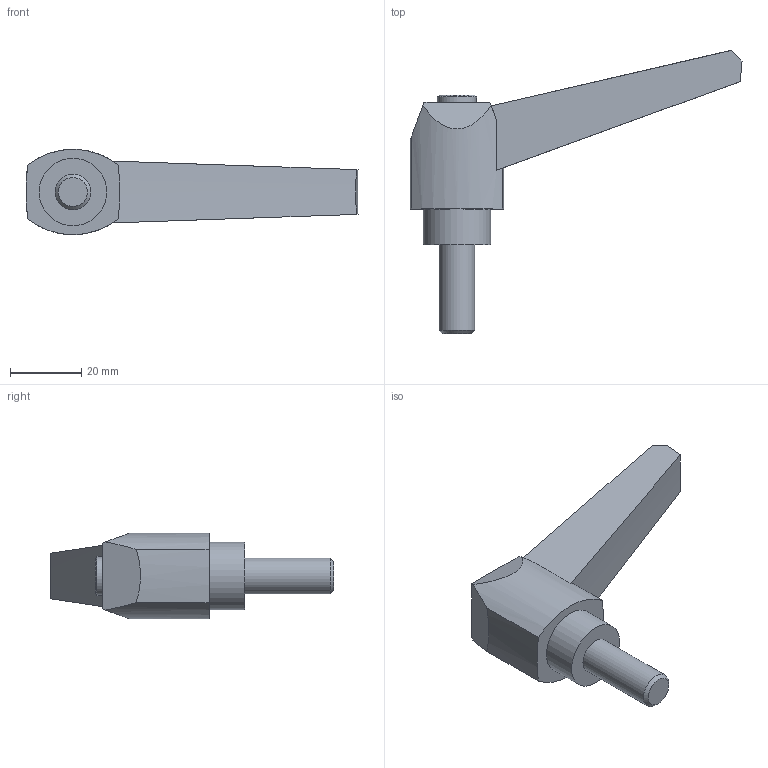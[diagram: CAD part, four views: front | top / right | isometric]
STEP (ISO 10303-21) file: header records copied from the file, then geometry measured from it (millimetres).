
FILE_DESCRIPTION( ( 'STEP AP203' ), '1' );
FILE_NAME( 'C:/Temp/Ganter_Step_05_03_2020/data/2_1/gn_500/gn_500_ms/Adjustable hand lever GN 500-80-M10-25-SW.stp', '2020-03-05T11:26:36', ( 'License CC BY-ND 4.0' ), ( 'CADENAS' ), ' ', 'PARTsolutions', ' ' );
FILE_SCHEMA( ( 'CONFIG_CONTROL_DESIGN' ) );
Length unit declared in the file: millimetre
Products named in the file (1): _Adjustable hand lever GN 500-80-M10-25-SW
Bounding box: 93.3 x 79.58 x 24 mm (x, y, z)
Volume: 34704.2 mm3; surface area: 8667.3 mm2
Topology: 1 solids, 1 shells, 24 faces, 56 edges, 37 vertices
Faces by surface type: plane 11, cylinder 7, cone 6
Full cylindrical faces by diameter (mm): 10 x1, 11 x1, 19 x1
Entity records: 709 total; most frequent: CARTESIAN_POINT 124, DIRECTION 118, ORIENTED_EDGE 100, EDGE_CURVE 50, AXIS2_PLACEMENT_3D 47, VERTEX_POINT 36, EDGE_LOOP 32, FACE_OUTER_BOUND 27
